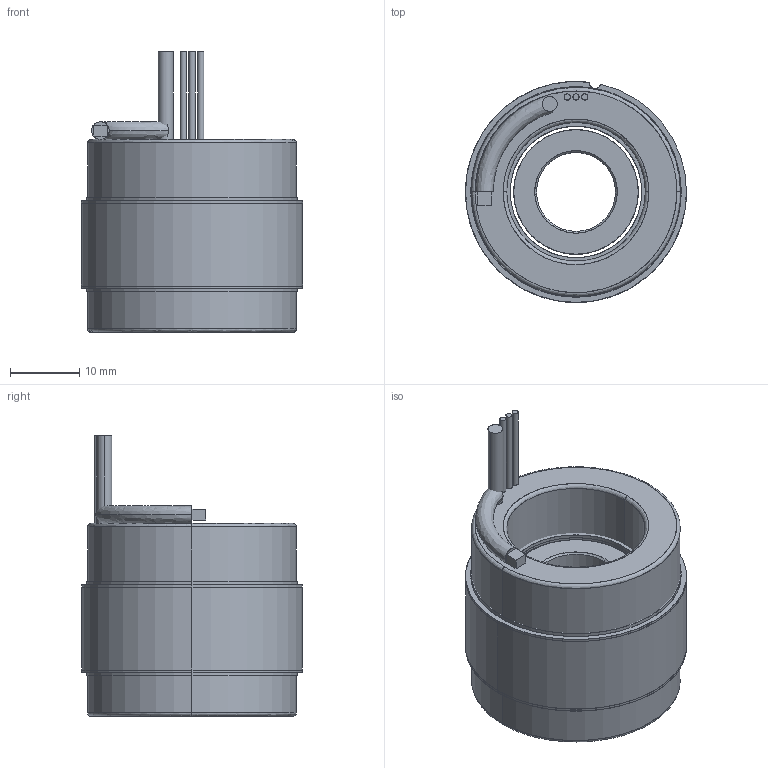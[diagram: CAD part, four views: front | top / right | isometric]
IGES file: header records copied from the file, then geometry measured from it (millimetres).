
Start section: SolidWorks IGES file using analytic representation for surfaces
Global section: file name: \\fs01.aveox.local\user documents\eng\My Documents\STANDARD STATOR ROTOR SETS\NEW DIRECT DRIVE MOTOR\1.26 OD 9s8p\6100335-01.IGS; native system: SolidWorks 2016; preprocessor: SolidWorks 2016; author: eng; date: 191023.125727; units: millimetre
Bounding box: 32 x 32 x 40.64 mm (x, y, z)
Surface area: 14077.5 mm2 (no closed solid volume)
Topology: 0 solids, 0 shells, 90 faces, 1744 edges, 1744 vertices
Faces by surface type: revolution 48, bspline 42
